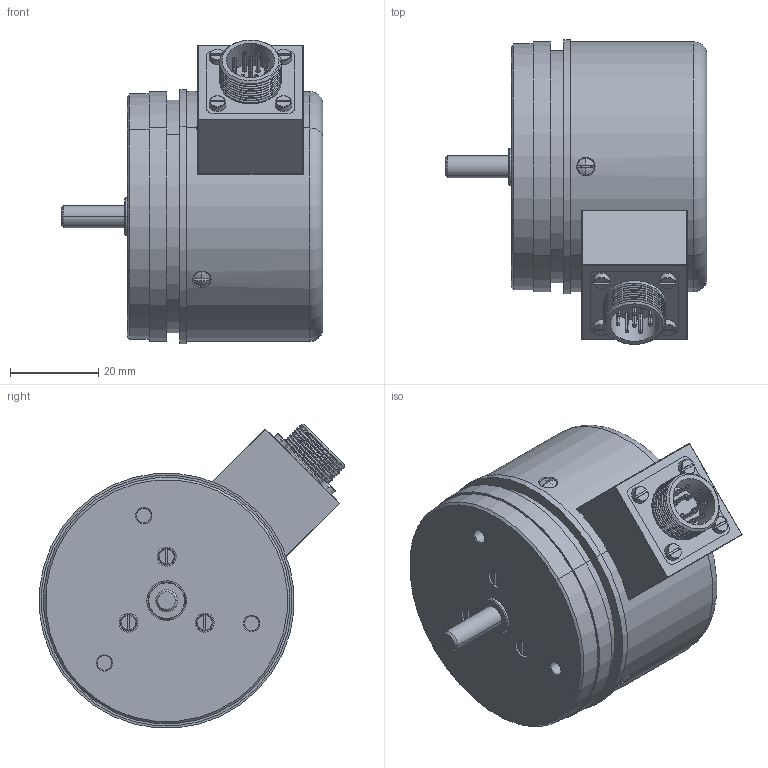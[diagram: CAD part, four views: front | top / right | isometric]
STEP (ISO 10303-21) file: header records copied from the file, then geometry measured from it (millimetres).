
FILE_DESCRIPTION (( 'STEP AP214' ), '1' );
FILE_NAME ('ËÈÐ-158Â_èñï 1.STEP', '2017-05-23T08:41:49', ( '' ), ( '' ), 'SwSTEP 2.0', 'SolidWorks 2013', '' );
FILE_SCHEMA (( 'AUTOMOTIVE_DESIGN' ));
Length unit declared in the file: millimetre
Products named in the file (1): ËÈÐ-158Â_èñï 1
Bounding box: 59.5 x 69.3 x 68.99 mm (x, y, z)
Surface area: 18444.6 mm2 (no closed solid volume)
Topology: 0 solids, 28 shells, 227 faces, 657 edges, 447 vertices
Faces by surface type: cylinder 80, plane 62, torus 36, cone 28, sphere 13, bspline 8
Entity records: 14017 total; most frequent: CARTESIAN_POINT 5628, DIRECTION 1296, ORIENTED_EDGE 1095, EDGE_CURVE 656, AXIS2_PLACEMENT_3D 558, VERTEX_POINT 447, CIRCLE 338, EDGE_LOOP 267
